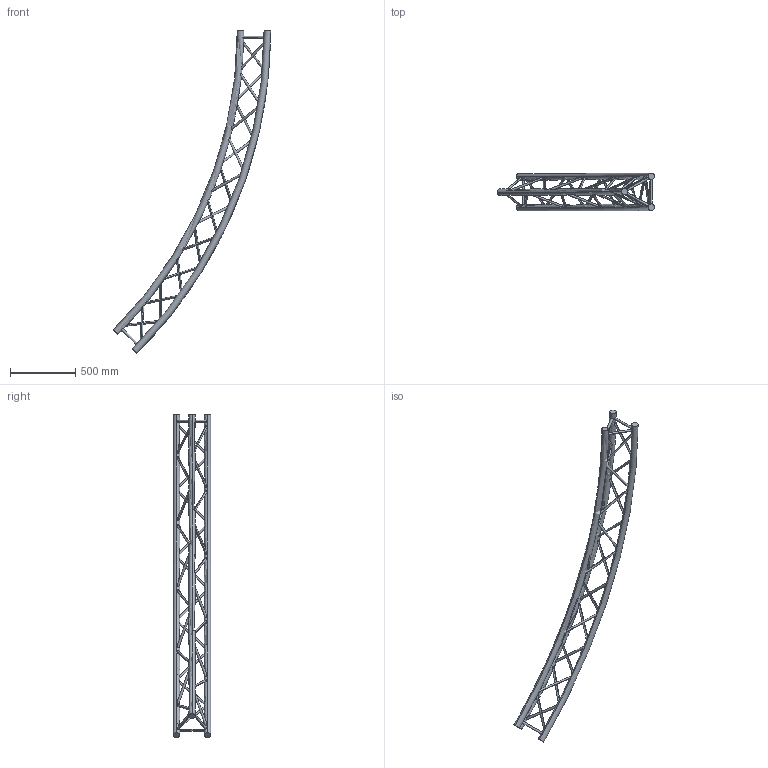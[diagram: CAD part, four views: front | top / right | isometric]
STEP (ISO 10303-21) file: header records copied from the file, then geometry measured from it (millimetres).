
FILE_DESCRIPTION (( 'STEP AP203' ), '1' );
FILE_NAME ('SXC29700PI.STEP', '2009-10-21T09:01:28', ( 'CEDIA' ), ( 'CEDIA INDUSTRIE' ), 'SwSTEP 2.0', 'SolidWorks 2009', '' );
FILE_SCHEMA (( 'CONFIG_CONTROL_DESIGN' ));
Length unit declared in the file: millimetre
Products named in the file (1): SXC29700PI
Bounding box: 1205.61 x 287 x 2474.87 mm (x, y, z)
Volume: 17628057.6 mm3; surface area: 1721161.2 mm2
Topology: 1 solids, 1 shells, 84 faces, 234 edges, 156 vertices
Faces by surface type: cylinder 72, torus 6, plane 6
Entity records: 9307 total; most frequent: CARTESIAN_POINT 7201, ORIENTED_EDGE 468, DIRECTION 278, EDGE_CURVE 234, VERTEX_POINT 156, EDGE_LOOP 156, B_SPLINE_CURVE_WITH_KNOTS 144, AXIS2_PLACEMENT_3D 103
